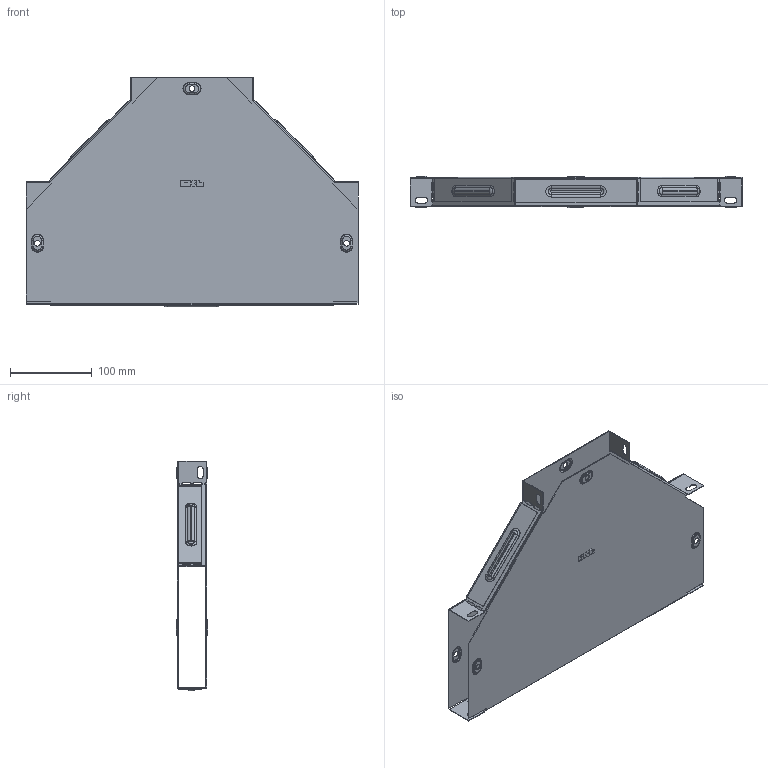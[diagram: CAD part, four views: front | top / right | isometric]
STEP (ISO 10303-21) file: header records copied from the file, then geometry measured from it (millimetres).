
FILE_DESCRIPTION (( 'STEP AP214' ), '1' );
FILE_NAME ('t3515008_捘.STEP', '2019-06-10T08:06:44', ( '砐錪賧瘔蠈錪 Windows' ), ( '' ), 'SwSTEP 2.0', 'SolidWorks 2018', '' );
FILE_SCHEMA (( 'AUTOMOTIVE_DESIGN' ));
Length unit declared in the file: millimetre
Products named in the file (1): t3515008_捘
Bounding box: 406.4 x 38.8 x 281 mm (x, y, z)
Volume: 177461.4 mm3; surface area: 446749.3 mm2
Topology: 2 solids, 2 shells, 594 faces, 1602 edges, 1032 vertices
Faces by surface type: plane 310, cylinder 170, torus 96, bspline 18
Entity records: 19659 total; most frequent: CARTESIAN_POINT 4309, ORIENTED_EDGE 3204, DIRECTION 3204, EDGE_CURVE 1602, VECTOR 1082, LINE 1082, AXIS2_PLACEMENT_3D 1061, VERTEX_POINT 1032
